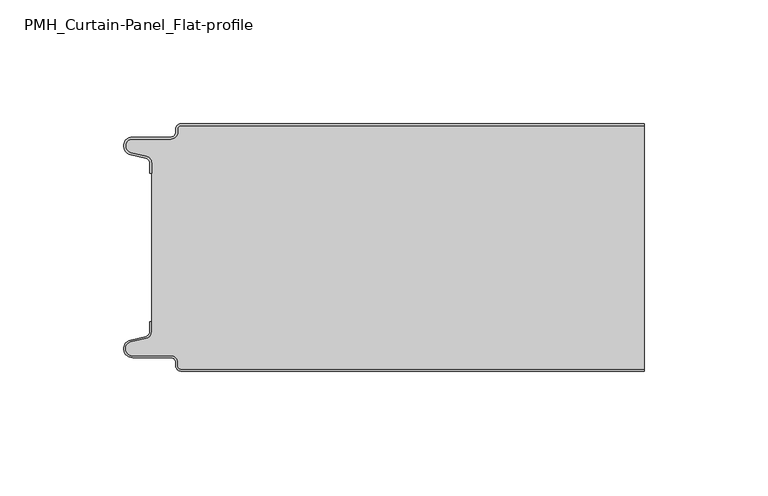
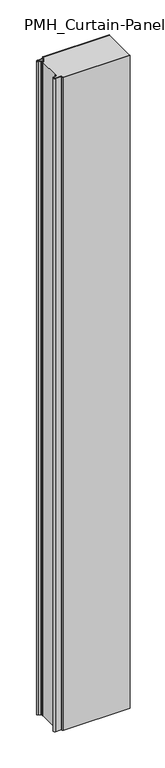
"""IFC4 building model written with IfcOpenShell, lengths in millimetres: plate geometry, PMH_Curtain-Panel_Flat-profile : ACH_PMH_Stone-wool-Panel_100M."""

from ifc_helpers import new_model, si_unit, point, frame_2d, origin, origin_with_axes, place, context, project, spatial, polyline, circle_curve, trimmed, segment, composite_curve, outline, extrude, source, transform, mapped, element, save


def pmh_curtain_panel_flat_profile_6eb7b3d5(model_context):
    return source(origin(), model_context, "Body", "SweptSolid", [
        extrude(outline(composite_curve([segment(trimmed(circle_curve(frame_2d((-87.4119739, -2.0)), 1.2), [point((-87.4119739, -0.8))], [point((-88.6119739, -2.0))], True, "CARTESIAN"), True, "CONTINUOUS"), segment(polyline([(-88.6119739, -2.0), (-88.6119739, -3.4)]), True, "CONTINUOUS"), segment(trimmed(circle_curve(frame_2d((-91.4119739, -3.4)), 2.8), [point((-88.6119739, -3.4))], [point((-91.4119739, -6.2))], False, "CARTESIAN"), True, "CONTINUOUS"), segment(polyline([(-91.4119739, -6.2), (-106.9119739, -6.2)]), True, "CONTINUOUS"), segment(trimmed(circle_curve(frame_2d((-106.9119739, -9.0)), 2.8), [point((-106.9119739, -6.2))], [point((-107.541837, -11.7282362))], True, "CARTESIAN"), True, "CONTINUOUS"), segment(polyline([(-107.541837, -11.7282362), (-101.3821109, -13.150321)]), True, "CONTINUOUS"), segment(trimmed(circle_curve(frame_2d((-102.0119739, -15.878557)), 2.8), [point((-101.3821109, -13.150321))], [point((-99.2119739, -15.878557))], False, "CARTESIAN"), True, "CONTINUOUS"), segment(polyline([(-99.2119739, -15.878557), (-99.2119739, -20.0), (-100.0119739, -20.0), (-100.0119739, -15.878557)]), True, "CONTINUOUS"), segment(trimmed(circle_curve(frame_2d((-102.0119739, -15.878557)), 2.0), [point((-100.0119739, -15.878557))], [point((-101.5620718, -13.9298169))], True, "CARTESIAN"), True, "CONTINUOUS"), segment(polyline([(-101.5620718, -13.9298169), (-107.7217978, -12.507732)]), True, "CONTINUOUS"), segment(trimmed(circle_curve(frame_2d((-106.9119739, -9.0)), 3.6), [point((-107.7217978, -12.507732))], [point((-106.9119739, -5.4))], False, "CARTESIAN"), True, "CONTINUOUS"), segment(polyline([(-106.9119739, -5.4), (-91.4119739, -5.4)]), True, "CONTINUOUS"), segment(trimmed(circle_curve(frame_2d((-91.4119739, -3.4)), 2.0), [point((-91.4119739, -5.4))], [point((-89.4119739, -3.4))], True, "CARTESIAN"), True, "CONTINUOUS"), segment(polyline([(-89.4119739, -3.4), (-89.4119739, -2.0)]), True, "CONTINUOUS"), segment(trimmed(circle_curve(frame_2d((-87.4119739, -2.0)), 2.0), [point((-89.4119739, -2.0))], [point((-87.4119739, 0.0))], False, "CARTESIAN"), True, "CONTINUOUS"), segment(polyline([(-87.4119739, 0.0), (100.0119739, 0.0), (100.0119739, -0.8), (-87.4119739, -0.8)]), True, "CONTINUOUS")], self_intersect=False)), origin_with_axes(), (0.0, 0.0, 1.0), 1945.7507136),
        extrude(outline(composite_curve([segment(polyline([(-99.2119739, -84.1214426), (-99.2119739, -15.8785573)]), True, "CONTINUOUS"), segment(trimmed(circle_curve(frame_2d((-102.0119739, -15.8785573)), 2.8), [point((-99.2119739, -15.8785573))], [point((-101.3821109, -13.1503212))], True, "CARTESIAN"), True, "CONTINUOUS"), segment(polyline([(-101.3821109, -13.1503212), (-107.541837, -11.7282362)]), True, "CONTINUOUS"), segment(trimmed(circle_curve(frame_2d((-106.911974, -9.0)), 2.8), [point((-107.541837, -11.7282362))], [point((-106.911974, -6.2))], False, "CARTESIAN"), True, "CONTINUOUS"), segment(polyline([(-106.911974, -6.2), (-91.411974, -6.2)]), True, "CONTINUOUS"), segment(trimmed(circle_curve(frame_2d((-91.411974, -3.4)), 2.8), [point((-91.411974, -6.2))], [point((-88.611974, -3.4))], True, "CARTESIAN"), True, "CONTINUOUS"), segment(polyline([(-88.611974, -3.4), (-88.611974, -2.0)]), True, "CONTINUOUS"), segment(trimmed(circle_curve(frame_2d((-87.411974, -2.0)), 1.2), [point((-88.611974, -2.0))], [point((-87.411974, -0.8))], False, "CARTESIAN"), True, "CONTINUOUS"), segment(polyline([(-87.411974, -0.8), (100.0119739, -0.8), (100.0119739, -99.2), (-87.411974, -99.2)]), True, "CONTINUOUS"), segment(trimmed(circle_curve(frame_2d((-87.411974, -98.0)), 1.2), [point((-87.411974, -99.2))], [point((-88.611974, -98.0))], False, "CARTESIAN"), True, "CONTINUOUS"), segment(polyline([(-88.611974, -98.0), (-88.611974, -96.6)]), True, "CONTINUOUS"), segment(trimmed(circle_curve(frame_2d((-91.411974, -96.6)), 2.8), [point((-88.611974, -96.6))], [point((-91.411974, -93.8))], True, "CARTESIAN"), True, "CONTINUOUS"), segment(polyline([(-91.411974, -93.8), (-106.911974, -93.8)]), True, "CONTINUOUS"), segment(trimmed(circle_curve(frame_2d((-106.911974, -91.0)), 2.8), [point((-106.911974, -93.8))], [point((-107.541837, -88.2717638))], False, "CARTESIAN"), True, "CONTINUOUS"), segment(polyline([(-107.541837, -88.2717638), (-101.3821109, -86.8496788)]), True, "CONTINUOUS"), segment(trimmed(circle_curve(frame_2d((-102.0119739, -84.1214426)), 2.8), [point((-101.3821109, -86.8496788))], [point((-99.2119739, -84.1214426))], True, "CARTESIAN"), True, "CONTINUOUS")], self_intersect=False)), origin_with_axes(), (0.0, 0.0, 1.0), 1945.7507136),
        extrude(outline(composite_curve([segment(trimmed(circle_curve(frame_2d((-87.4119739, -98.0)), 2.0), [point((-87.4119739, -100.0))], [point((-89.4119739, -98.0))], False, "CARTESIAN"), True, "CONTINUOUS"), segment(polyline([(-89.4119739, -98.0), (-89.4119739, -96.6)]), True, "CONTINUOUS"), segment(trimmed(circle_curve(frame_2d((-91.4119739, -96.6)), 2.0), [point((-89.4119739, -96.6))], [point((-91.4119739, -94.6))], True, "CARTESIAN"), True, "CONTINUOUS"), segment(polyline([(-91.4119739, -94.6), (-106.9119739, -94.6)]), True, "CONTINUOUS"), segment(trimmed(circle_curve(frame_2d((-106.9119739, -91.0)), 3.6), [point((-106.9119739, -94.6))], [point((-107.7217979, -87.4922678))], False, "CARTESIAN"), True, "CONTINUOUS"), segment(polyline([(-107.7217979, -87.4922678), (-101.5620718, -86.070183)]), True, "CONTINUOUS"), segment(trimmed(circle_curve(frame_2d((-102.0119739, -84.121443)), 2.0), [point((-101.5620718, -86.070183))], [point((-100.0119739, -84.121443))], True, "CARTESIAN"), True, "CONTINUOUS"), segment(polyline([(-100.0119739, -84.121443), (-100.0119739, -80.0), (-99.2119739, -80.0), (-99.2119739, -84.121443)]), True, "CONTINUOUS"), segment(trimmed(circle_curve(frame_2d((-102.0119739, -84.121443)), 2.8), [point((-99.2119739, -84.121443))], [point((-101.3821109, -86.8496792))], False, "CARTESIAN"), True, "CONTINUOUS"), segment(polyline([(-101.3821109, -86.8496792), (-107.5418369, -88.271764)]), True, "CONTINUOUS"), segment(trimmed(circle_curve(frame_2d((-106.9119739, -91.0)), 2.8), [point((-107.5418369, -88.271764))], [point((-106.9119739, -93.8))], True, "CARTESIAN"), True, "CONTINUOUS"), segment(polyline([(-106.9119739, -93.8), (-91.4119739, -93.8)]), True, "CONTINUOUS"), segment(trimmed(circle_curve(frame_2d((-91.4119739, -96.6)), 2.8), [point((-91.4119739, -93.8))], [point((-88.6119739, -96.6))], False, "CARTESIAN"), True, "CONTINUOUS"), segment(polyline([(-88.6119739, -96.6), (-88.6119739, -98.0)]), True, "CONTINUOUS"), segment(trimmed(circle_curve(frame_2d((-87.4119739, -98.0)), 1.2), [point((-88.6119739, -98.0))], [point((-87.4119739, -99.2))], True, "CARTESIAN"), True, "CONTINUOUS"), segment(polyline([(-87.4119739, -99.2), (100.0119739, -99.2), (100.0119739, -100.0), (-87.4119739, -100.0)]), True, "CONTINUOUS")], self_intersect=False)), origin_with_axes(), (0.0, 0.0, 1.0), 1945.7507136),
    ])


if __name__ == "__main__":
    model = new_model("IFC4")
    model_context = context("Model", 3, world=origin())
    ifc_project = project(units=[si_unit("LENGTHUNIT", "METRE", prefix="MILLI")], contexts=[model_context])
    site = spatial("IfcSite", under=ifc_project)
    building = spatial("IfcBuilding", under=site)
    placement = place(None, origin())
    pmh_curtain_panel_flat_profile_shape = pmh_curtain_panel_flat_profile_6eb7b3d5(model_context)
    element("IfcPlate", 1, ObjectType="PMH_Curtain-Panel_Flat-profile : ACH_PMH_Stone-wool-Panel_100M", at=placement, inside=building, context=model_context, shape_type="MappedRepresentation", body=[
        mapped(pmh_curtain_panel_flat_profile_shape, transform((0.0, 0.0, 0.0), x_axis=(1.0, 0.0, 0.0), y_axis=(0.0, 1.0, 0.0), z_axis=(0.0, 0.0, 1.0))),
    ])
    save(model, "model.ifc")
